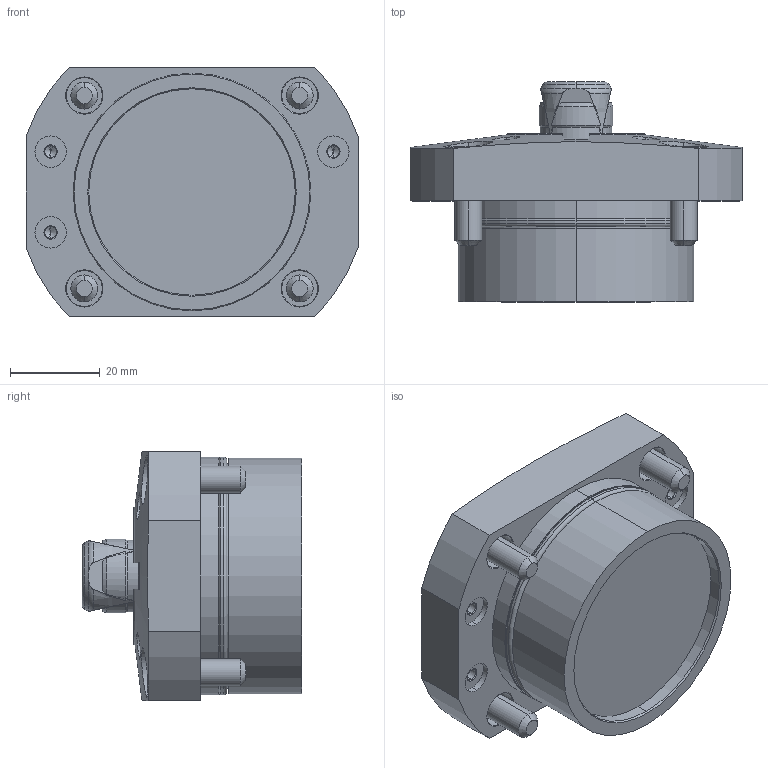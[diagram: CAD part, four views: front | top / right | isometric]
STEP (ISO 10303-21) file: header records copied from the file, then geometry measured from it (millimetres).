
FILE_DESCRIPTION (( 'STEP AP203' ), '1' );
FILE_NAME ('SFH3170_N.STEP', '2010-11-03T23:34:34', ( ' ' ), ( ' ' ), 'SwSTEP 2.0', 'SolidWorks 2010', '' );
FILE_SCHEMA (( 'CONFIG_CONTROL_DESIGN' ));
Length unit declared in the file: millimetre
Products named in the file (7): SFH3170_N; SFH3_钾堇轤O剌皋晅; 冇17_郫霓; 6妏寠晅无倌_M3_10; 6妏寠晅无倌_M6_16; φ17_ｽﾘｰﾌﾞ-N; SFH3170-N_套菁轤礁诎蔬晅
Assembly tree (14 placements, depth 2):
  SFH3170_N
    SFH3_钾堇轤O剌皋晅
    φ17_ｽﾘｰﾌﾞ-N
    6妏寠晅无倌_M6_16  x4
    6妏寠晅无倌_M3_10  x6
    冇17_郫霓
    SFH3170-N_套菁轤礁诎蔬晅
Bounding box: 74 x 49 x 55.5 mm (x, y, z)
Volume: 96876.1 mm3; surface area: 30170.8 mm2
Topology: 18 solids, 18 shells, 556 faces, 1125 edges, 616 vertices
Faces by surface type: plane 223, cone 182, cylinder 132, torus 19
Entity records: 10315 total; most frequent: CARTESIAN_POINT 2524, DIRECTION 1514, ORIENTED_EDGE 1362, EDGE_CURVE 681, AXIS2_PLACEMENT_3D 636, VERTEX_POINT 416, EDGE_LOOP 353, CIRCLE 311
